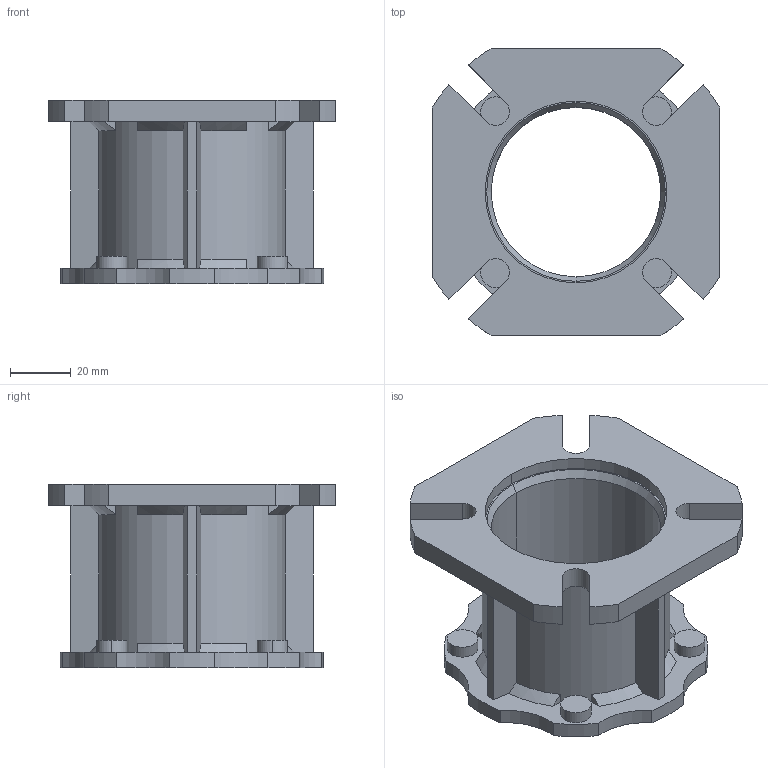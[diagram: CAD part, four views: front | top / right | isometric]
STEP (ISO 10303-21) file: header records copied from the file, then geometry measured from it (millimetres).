
FILE_DESCRIPTION(/* description */ (''),/* implementation_level */ '2;1');
FILE_NAME(/* name */ 'FB',/* time_stamp */ '2025-10-09T14:10:09+02:00',/* author */ (''),/* organization */ (''),/* preprocessor_version */ 'ST-DEVELOPER v19.2',/* originating_system */ 'Rhino 8.23',/* authorisation */ '');
FILE_SCHEMA (('CONFIG_CONTROL_DESIGN'));
Length unit declared in the file: millimetre
Products named in the file (2): Document; FU 40FB
Bounding box: 95 x 95 x 60.5 mm (x, y, z)
Volume: 85690.4 mm3; surface area: 43071.6 mm2
Topology: 1 solids, 1 shells, 117 faces, 316 edges, 210 vertices
Faces by surface type: plane 51, cylinder 48, bspline 18
Entity records: 5232 total; most frequent: CARTESIAN_POINT 1447, ORIENTED_EDGE 632, DIRECTION 367, EDGE_CURVE 316, AXIS2_PLACEMENT_3D 233, VERTEX_POINT 210, B_SPLINE_CURVE_WITH_KNOTS 186, TRIMMED_CURVE 130
